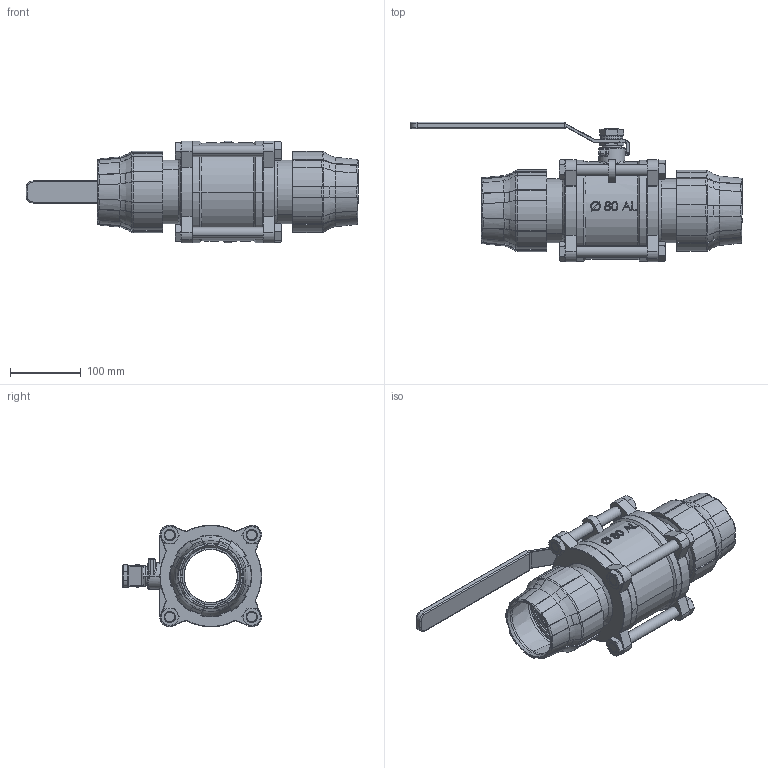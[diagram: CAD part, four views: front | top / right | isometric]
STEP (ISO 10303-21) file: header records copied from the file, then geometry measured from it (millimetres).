
FILE_DESCRIPTION (( 'STEP AP203' ), '1' );
FILE_NAME ('QLVAINOX080.STEP', '2014-05-20T09:14:58', ( '' ), ( '' ), 'SwSTEP 2.0', 'SolidWorks 2013', '' );
FILE_SCHEMA (( 'CONFIG_CONTROL_DESIGN' ));
Length unit declared in the file: millimetre
Products named in the file (6): QLVAINOX080; QLVAINOX80AL; CCONVAL080248; hex bolt gradeb_iso_ISO 4015 - M16 x 140 x 44-C; hex thin nut chamfered gradeab_iso_Hexagon Thin Nut ISO - 4035 - M16 - N; CGHQUICK080AL
Assembly tree (13 placements, depth 2):
  QLVAINOX080
    QLVAINOX80AL
    CCONVAL080248  x2
    hex bolt gradeb_iso_ISO 4015 - M16 x 140 x 44-C  x4
    hex thin nut chamfered gradeab_iso_Hexagon Thin Nut ISO - 4035 - M16 - N  x4
    CGHQUICK080AL  x2
Bounding box: 469.92 x 197.25 x 144.15 mm (x, y, z)
Volume: 2133821.1 mm3; surface area: 601785.4 mm2
Topology: 15 solids, 15 shells, 1274 faces, 3362 edges, 2095 vertices
Faces by surface type: cylinder 379, plane 334, bspline 231, cone 160, torus 149, sphere 21
Entity records: 37398 total; most frequent: CARTESIAN_POINT 18244, ORIENTED_EDGE 4236, DIRECTION 3288, EDGE_CURVE 2118, VERTEX_POINT 1330, AXIS2_PLACEMENT_3D 1272, EDGE_LOOP 874, FACE_OUTER_BOUND 807
